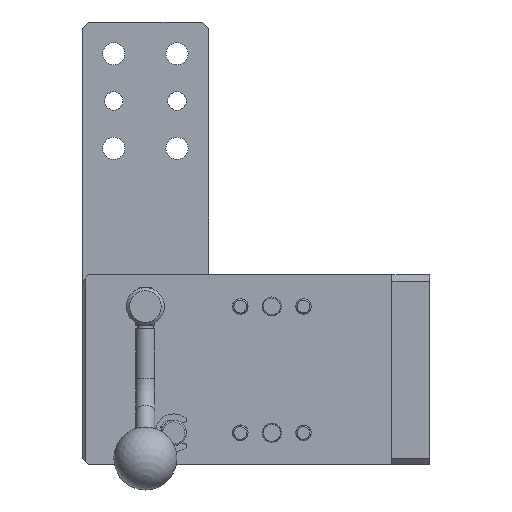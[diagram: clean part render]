
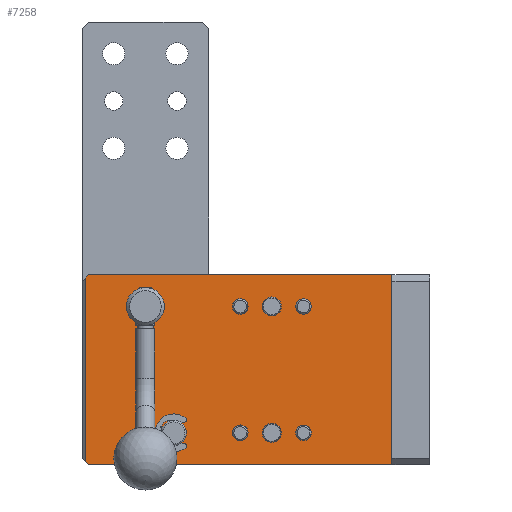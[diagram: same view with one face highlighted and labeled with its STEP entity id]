
A CAD part, left-side view. The second image highlights one B-rep face of the part: STEP entity #7258.
In plain terms, the highlighted planar face has unit normal (-1, 0, 0).
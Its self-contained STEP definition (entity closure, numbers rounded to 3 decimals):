
#7258=ADVANCED_FACE('',(#8459,#8460,#8461,#8462,#8463,#8464,#8465,#8466,
#8467),#7798,.F.);
#7798=PLANE('',#17953);
#8459=FACE_BOUND('',#9572,.T.);
#8460=FACE_BOUND('',#9573,.T.);
#8461=FACE_BOUND('',#9574,.T.);
#8462=FACE_BOUND('',#9575,.T.);
#8463=FACE_BOUND('',#9576,.T.);
#8464=FACE_BOUND('',#9577,.T.);
#8465=FACE_BOUND('',#9578,.T.);
#8466=FACE_BOUND('',#9579,.T.);
#8467=FACE_BOUND('',#9580,.T.);
#9572=EDGE_LOOP('',(#12271,#12272,#12273,#12274,#12275,#12276));
#9573=EDGE_LOOP('',(#12277));
#9574=EDGE_LOOP('',(#12278));
#9575=EDGE_LOOP('',(#12279));
#9576=EDGE_LOOP('',(#12280));
#9577=EDGE_LOOP('',(#12281));
#9578=EDGE_LOOP('',(#12282));
#9579=EDGE_LOOP('',(#12283));
#9580=EDGE_LOOP('',(#12284));
#10504=CIRCLE('',#17934,3.);
#10505=CIRCLE('',#17936,3.);
#10511=CIRCLE('',#17947,2.45);
#10512=CIRCLE('',#17948,2.45);
#10513=CIRCLE('',#17949,6.);
#10514=CIRCLE('',#17950,2.5);
#10515=CIRCLE('',#17951,2.5);
#10516=CIRCLE('',#17952,4.);
#12271=ORIENTED_EDGE('',*,*,#15391,.T.);
#12272=ORIENTED_EDGE('',*,*,#15351,.T.);
#12273=ORIENTED_EDGE('',*,*,#15392,.F.);
#12274=ORIENTED_EDGE('',*,*,#15393,.F.);
#12275=ORIENTED_EDGE('',*,*,#15394,.F.);
#12276=ORIENTED_EDGE('',*,*,#15342,.F.);
#12277=ORIENTED_EDGE('',*,*,#15381,.F.);
#12278=ORIENTED_EDGE('',*,*,#15382,.F.);
#12279=ORIENTED_EDGE('',*,*,#15395,.F.);
#12280=ORIENTED_EDGE('',*,*,#15396,.F.);
#12281=ORIENTED_EDGE('',*,*,#15397,.F.);
#12282=ORIENTED_EDGE('',*,*,#15398,.T.);
#12283=ORIENTED_EDGE('',*,*,#15399,.T.);
#12284=ORIENTED_EDGE('',*,*,#15400,.F.);
#14113=VERTEX_POINT('',#24365);
#14114=VERTEX_POINT('',#24367);
#14122=VERTEX_POINT('',#24384);
#14123=VERTEX_POINT('',#24386);
#14147=VERTEX_POINT('',#24452);
#14148=VERTEX_POINT('',#24455);
#14156=VERTEX_POINT('',#24478);
#14157=VERTEX_POINT('',#24480);
#14158=VERTEX_POINT('',#24483);
#14159=VERTEX_POINT('',#24485);
#14160=VERTEX_POINT('',#24487);
#14161=VERTEX_POINT('',#24489);
#14162=VERTEX_POINT('',#24491);
#14163=VERTEX_POINT('',#24493);
#15342=EDGE_CURVE('',#14113,#14114,#16328,.T.);
#15351=EDGE_CURVE('',#14123,#14122,#16337,.T.);
#15381=EDGE_CURVE('',#14147,#14147,#10504,.T.);
#15382=EDGE_CURVE('',#14148,#14148,#10505,.T.);
#15391=EDGE_CURVE('',#14113,#14123,#16356,.T.);
#15392=EDGE_CURVE('',#14156,#14122,#16357,.T.);
#15393=EDGE_CURVE('',#14157,#14156,#16358,.T.);
#15394=EDGE_CURVE('',#14114,#14157,#16359,.T.);
#15395=EDGE_CURVE('',#14158,#14158,#10511,.T.);
#15396=EDGE_CURVE('',#14159,#14159,#10512,.T.);
#15397=EDGE_CURVE('',#14160,#14160,#10513,.T.);
#15398=EDGE_CURVE('',#14161,#14161,#10514,.T.);
#15399=EDGE_CURVE('',#14162,#14162,#10515,.T.);
#15400=EDGE_CURVE('',#14163,#14163,#10516,.T.);
#16328=LINE('',#24366,#16920);
#16337=LINE('',#24385,#16929);
#16356=LINE('',#24476,#16948);
#16357=LINE('',#24477,#16949);
#16358=LINE('',#24479,#16950);
#16359=LINE('',#24481,#16951);
#16920=VECTOR('',#20295,1.);
#16929=VECTOR('',#20306,1.);
#16948=VECTOR('',#20403,1.);
#16949=VECTOR('',#20404,1.);
#16950=VECTOR('',#20405,1.);
#16951=VECTOR('',#20406,1.);
#17934=AXIS2_PLACEMENT_3D('',#24451,#20374,#20375);
#17936=AXIS2_PLACEMENT_3D('',#24454,#20378,#20379);
#17947=AXIS2_PLACEMENT_3D('',#24482,#20407,#20408);
#17948=AXIS2_PLACEMENT_3D('',#24484,#20409,#20410);
#17949=AXIS2_PLACEMENT_3D('',#24486,#20411,#20412);
#17950=AXIS2_PLACEMENT_3D('',#24488,#20413,#20414);
#17951=AXIS2_PLACEMENT_3D('',#24490,#20415,#20416);
#17952=AXIS2_PLACEMENT_3D('',#24492,#20417,#20418);
#17953=AXIS2_PLACEMENT_3D('',#24494,#20419,#20420);
#20295=DIRECTION('',(0.,1.,0.));
#20306=DIRECTION('',(0.,1.,0.));
#20374=DIRECTION('',(-1.,0.,0.));
#20375=DIRECTION('',(0.,0.,1.));
#20378=DIRECTION('',(-1.,0.,0.));
#20379=DIRECTION('',(0.,0.,1.));
#20403=DIRECTION('',(0.,0.,1.));
#20404=DIRECTION('',(0.,-0.707,0.707));
#20405=DIRECTION('',(0.,0.,1.));
#20406=DIRECTION('',(0.,0.707,0.707));
#20407=DIRECTION('',(-1.,0.,0.));
#20408=DIRECTION('',(0.,0.,1.));
#20409=DIRECTION('',(-1.,0.,0.));
#20410=DIRECTION('',(0.,0.,1.));
#20411=DIRECTION('',(-1.,0.,0.));
#20412=DIRECTION('',(0.,0.,1.));
#20413=DIRECTION('',(1.,0.,0.));
#20414=DIRECTION('',(0.,0.,1.));
#20415=DIRECTION('',(1.,0.,0.));
#20416=DIRECTION('',(0.,0.,1.));
#20417=DIRECTION('',(-1.,0.,0.));
#20418=DIRECTION('',(0.,0.,1.));
#20419=DIRECTION('',(1.,0.,0.));
#20420=DIRECTION('',(0.,0.,-1.));
#24365=CARTESIAN_POINT('',(-112.,42.,0.));
#24366=CARTESIAN_POINT('',(-112.,47.,0.));
#24367=CARTESIAN_POINT('',(-112.,138.,0.));
#24384=CARTESIAN_POINT('',(-112.,138.,60.));
#24385=CARTESIAN_POINT('',(-112.,47.,60.));
#24386=CARTESIAN_POINT('',(-112.,42.,60.));
#24451=CARTESIAN_POINT('',(-112.,80.,50.));
#24452=CARTESIAN_POINT('',(-112.,80.,53.));
#24454=CARTESIAN_POINT('',(-112.,80.,10.));
#24455=CARTESIAN_POINT('',(-112.,80.,13.));
#24476=CARTESIAN_POINT('',(-112.,42.,60.));
#24477=CARTESIAN_POINT('',(-112.,138.,60.));
#24478=CARTESIAN_POINT('',(-112.,139.,59.));
#24479=CARTESIAN_POINT('',(-112.,139.,60.));
#24480=CARTESIAN_POINT('',(-112.,139.,1.));
#24481=CARTESIAN_POINT('',(-112.,140.,2.));
#24482=CARTESIAN_POINT('',(-112.,70.,50.));
#24483=CARTESIAN_POINT('',(-112.,70.,52.45));
#24484=CARTESIAN_POINT('',(-112.,70.,10.));
#24485=CARTESIAN_POINT('',(-112.,70.,12.45));
#24486=CARTESIAN_POINT('',(-112.,120.,50.));
#24487=CARTESIAN_POINT('',(-112.,120.,56.));
#24488=CARTESIAN_POINT('',(-112.,90.,50.));
#24489=CARTESIAN_POINT('',(-112.,90.,52.5));
#24490=CARTESIAN_POINT('',(-112.,90.,10.));
#24491=CARTESIAN_POINT('',(-112.,90.,12.5));
#24492=CARTESIAN_POINT('',(-112.,111.,10.));
#24493=CARTESIAN_POINT('',(-112.,111.,14.));
#24494=CARTESIAN_POINT('',(-112.,68.,60.));
